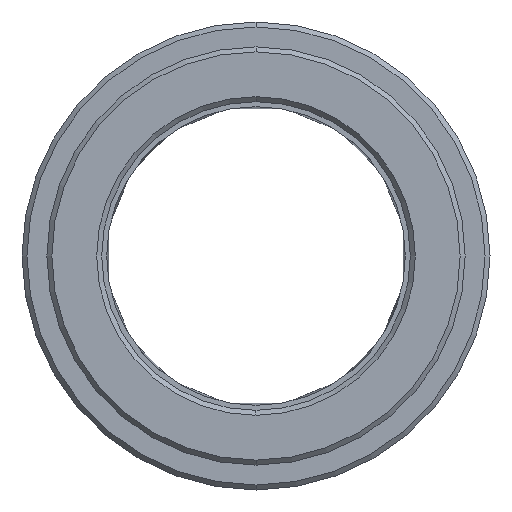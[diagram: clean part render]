
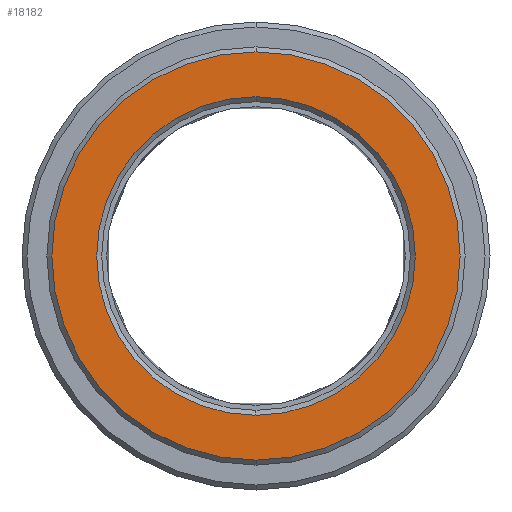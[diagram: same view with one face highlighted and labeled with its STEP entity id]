
A CAD part, left-side view. The second image highlights one B-rep face of the part: STEP entity #18182.
In plain terms, the highlighted planar face has unit normal (-1, 0, 0).
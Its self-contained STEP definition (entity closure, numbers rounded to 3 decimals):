
#7394=CARTESIAN_POINT('',(-8.,0.,
0.));
#7395=DIRECTION('',(1.,0.,0.));
#7396=DIRECTION('',(0.,0.,1.));
#7397=AXIS2_PLACEMENT_3D('',#7394,#7395,#7396);
#7399=CARTESIAN_POINT('',(-8.,0.,
0.));
#7400=DIRECTION('',(1.,0.,0.));
#7401=DIRECTION('',(0.,0.,-1.));
#7402=AXIS2_PLACEMENT_3D('',#7399,#7400,#7401);
#7404=CARTESIAN_POINT('',(-8.,0.,
0.));
#7405=DIRECTION('',(1.,0.,0.));
#7406=DIRECTION('',(0.,0.,1.));
#7407=AXIS2_PLACEMENT_3D('',#7404,#7405,#7406);
#7409=CARTESIAN_POINT('',(-8.,0.,0.));
#7410=DIRECTION('',(1.,0.,0.));
#7411=DIRECTION('',(0.,0.,-1.));
#7412=AXIS2_PLACEMENT_3D('',#7409,#7410,#7411);
#15538=CARTESIAN_POINT('',(-8.,0.,16.));
#15539=CARTESIAN_POINT('',(-8.,0.,-16.));
#15540=VERTEX_POINT('',#15538);
#15541=VERTEX_POINT('',#15539);
#15546=CARTESIAN_POINT('',(-8.,0.,20.5));
#15547=CARTESIAN_POINT('',(-8.,0.,
-20.5));
#15548=VERTEX_POINT('',#15546);
#15549=VERTEX_POINT('',#15547);
#18166=CARTESIAN_POINT('',(-8.,0.,0.));
#18167=DIRECTION('',(1.,0.,0.));
#18168=DIRECTION('',(0.,0.,1.));
#18169=AXIS2_PLACEMENT_3D('',#18166,#18167,#18168);
#18170=PLANE('',#18169);
#18172=ORIENTED_EDGE('',*,*,#18171,.T.);
#18174=ORIENTED_EDGE('',*,*,#18173,.T.);
#18175=EDGE_LOOP('',(#18172,#18174));
#18176=FACE_OUTER_BOUND('',#18175,.F.);
#18178=ORIENTED_EDGE('',*,*,#18177,.F.);
#18179=ORIENTED_EDGE('',*,*,#18156,.F.);
#18180=EDGE_LOOP('',(#18178,#18179));
#18181=FACE_BOUND('',#18180,.F.);
#18182=ADVANCED_FACE('',(#18176,#18181),#18170,.F.);
#7398=CIRCLE('',#7397,20.5);
#7403=CIRCLE('',#7402,20.5);
#7408=CIRCLE('',#7407,16.);
#7413=CIRCLE('',#7412,16.);
#18156=EDGE_CURVE('',#15541,#15540,#7413,.T.);
#18171=EDGE_CURVE('',#15548,#15549,#7398,.T.);
#18173=EDGE_CURVE('',#15549,#15548,#7403,.T.);
#18177=EDGE_CURVE('',#15540,#15541,#7408,.T.);
